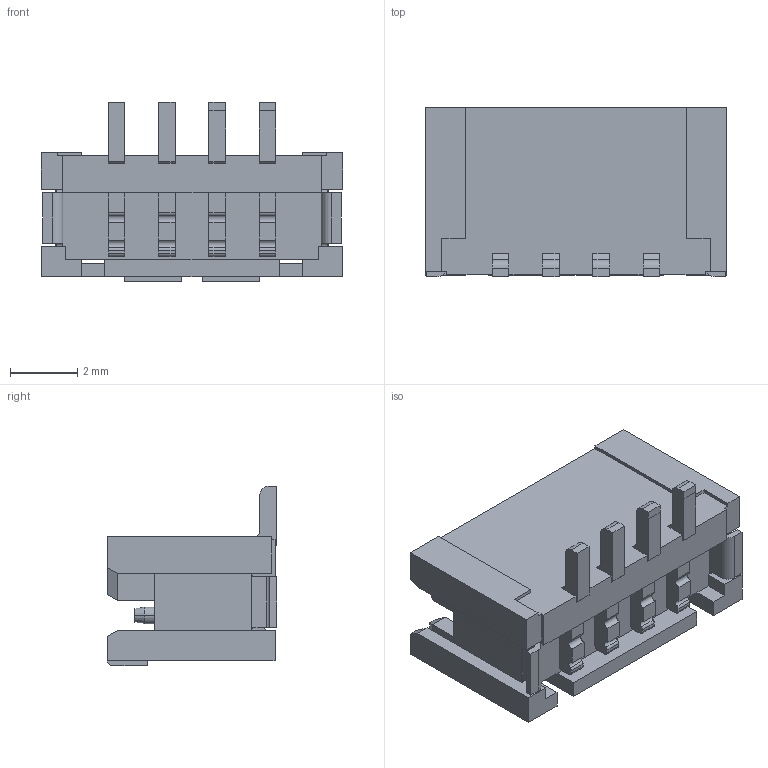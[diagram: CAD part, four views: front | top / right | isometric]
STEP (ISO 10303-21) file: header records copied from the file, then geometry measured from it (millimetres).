
FILE_DESCRIPTION((''),'2;1');
FILE_NAME('00124','2017-04-20T',('d25011'),(''),'CREO PARAMETRIC BY PTC INC, 2014500','CREO PARAMETRIC BY PTC INC, 2014500','');
FILE_SCHEMA(('CONFIG_CONTROL_DESIGN'));
Length unit declared in the file: millimetre
Products named in the file (1): 00124
Bounding box: 9 x 5.05 x 5.35 mm (x, y, z)
Volume: 84.1 mm3; surface area: 316.8 mm2
Topology: 1 solids, 1 shells, 236 faces, 664 edges, 430 vertices
Faces by surface type: plane 180, cylinder 48, cone 8
Entity records: 7562 total; most frequent: CARTESIAN_POINT 1330, ORIENTED_EDGE 1328, DIRECTION 1248, EDGE_CURVE 664, VECTOR 552, LINE 552, VERTEX_POINT 430, AXIS2_PLACEMENT_3D 348
